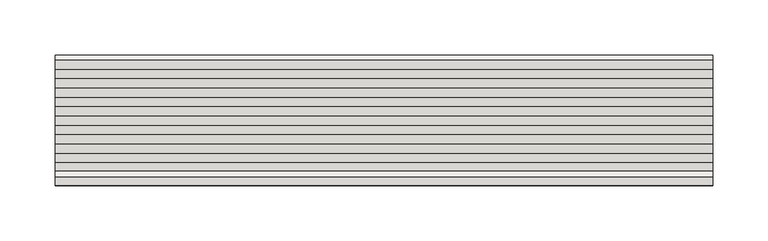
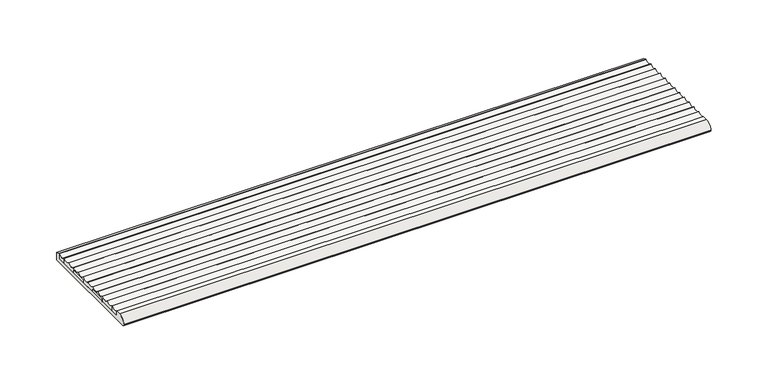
"""IFC4 building model written with IfcOpenShell, lengths in millimetres: slab geometry, ROSA GRES_003 : Pieza 003_Aqua_Marino_Anti-Slip."""

from ifc_helpers import new_model, si_unit, point, frame, frame_2d, origin, place, context, project, spatial, polyline, circle_curve, trimmed, segment, composite_curve, outline, extrude, source, transform, mapped, element, save


def slab_f8cb5bc4(model_context):
    return source(origin(), model_context, "Body", "SweptSolid", [
        extrude(outline(composite_curve([segment(polyline([(7.6419163, 9.4971975), (13.1748183, 9.4971975), (13.1748183, 4.0921512), (114.6668888, 4.0921512), (114.6668888, 10.0184612)]), True, "CONTINUOUS"), segment(trimmed(circle_curve(frame_2d((118.9168888, 13.6516438)), 5.5912893), [point((114.6668888, 10.0184612))], [point((118.9168888, 8.0603545))], True, "CARTESIAN"), True, "CONTINUOUS"), segment(polyline([(118.9168888, 8.0603545), (118.9168888, 0.0), (1.8518481, 0.0), (0.5422562, 1.309592)]), True, "CONTINUOUS"), segment(trimmed(circle_curve(frame_2d((1.9104791, 2.6778148)), 1.9349594), [point((0.5422562, 1.309592))], [point((0.0, 2.9846331))], False, "CARTESIAN"), True, "CONTINUOUS"), segment(trimmed(circle_curve(frame_2d((7.6419163, 1.7573601)), 7.7398374), [point((0.0, 2.9846331))], [point((7.6419163, 9.4971975))], False, "CARTESIAN"), True, "CONTINUOUS")], self_intersect=False)), frame((0.0, 0.0, 0.0), z_axis=(1.0, 0.0, 0.0), x_axis=(0.0, 1.0, 0.0)), (0.0, 0.0, 1.0), 598.1229221),
        extrude(outline(composite_curve([segment(trimmed(circle_curve(frame_2d((110.4168888, 13.6516438)), 5.5912893), [point((106.1668888, 10.0184612))], [point((114.6668888, 10.0184612))], True, "CARTESIAN"), True, "CONTINUOUS"), segment(polyline([(114.6668888, 10.0184612), (114.6668888, 4.0921512), (106.1668888, 4.0921512), (106.1668888, 10.0184612)]), True, "CONTINUOUS")], self_intersect=False)), frame((0.0, 0.0, 0.0), z_axis=(1.0, 0.0, 0.0), x_axis=(0.0, 1.0, 0.0)), (0.0, 0.0, 1.0), 598.1229221),
        extrude(outline(polyline([(598.1229221, 89.1668888), (598.1229221, 72.1668888), (0.0, 72.1668888), (0.0, 89.1668888), (598.1229221, 89.1668888)])), frame((0.0, 0.0, 4.0921512), z_axis=(0.0, 0.0, 1.0), x_axis=(1.0, 0.0, 0.0)), (0.0, 0.0, 1.0), 2.92631),
        extrude(outline(polyline([(598.1229221, 55.1668888), (598.1229221, 38.1668888), (0.0, 38.1668888), (0.0, 55.1668888), (598.1229221, 55.1668888)])), frame((0.0, 0.0, 4.0921512), z_axis=(0.0, 0.0, 1.0), x_axis=(1.0, 0.0, 0.0)), (0.0, 0.0, 1.0), 2.92631),
        extrude(outline(composite_curve([segment(trimmed(circle_curve(frame_2d((16.9168888, 13.6516438)), 5.5912893), [point((13.1748183, 9.4971975))], [point((21.1668888, 10.0184612))], True, "CARTESIAN"), True, "CONTINUOUS"), segment(polyline([(21.1668888, 10.0184612), (21.1668888, 4.0921512), (13.1748183, 4.0921512), (13.1748183, 9.4971975)]), True, "CONTINUOUS")], self_intersect=False)), frame((0.0, 0.0, 0.0), z_axis=(1.0, 0.0, 0.0), x_axis=(0.0, 1.0, 0.0)), (0.0, 0.0, 1.0), 598.1229221),
        extrude(outline(composite_curve([segment(trimmed(circle_curve(frame_2d((25.4168888, 13.6553338)), 5.5912893), [point((21.1668888, 10.0221512))], [point((29.6668888, 10.0221512))], True, "CARTESIAN"), True, "CONTINUOUS"), segment(trimmed(circle_curve(frame_2d((33.9168888, 13.6553338)), 5.5912893), [point((29.6668888, 10.0221512))], [point((38.1668888, 10.0221512))], True, "CARTESIAN"), True, "CONTINUOUS"), segment(trimmed(circle_curve(frame_2d((42.4168888, 13.6553338)), 5.5912893), [point((38.1668888, 10.0221512))], [point((46.6668888, 10.0221512))], True, "CARTESIAN"), True, "CONTINUOUS"), segment(trimmed(circle_curve(frame_2d((50.9168888, 13.6553338)), 5.5912893), [point((46.6668888, 10.0221512))], [point((55.1668888, 10.0221512))], True, "CARTESIAN"), True, "CONTINUOUS"), segment(trimmed(circle_curve(frame_2d((59.4168888, 13.6553338)), 5.5912893), [point((55.1668888, 10.0221512))], [point((63.6668888, 10.0221512))], True, "CARTESIAN"), True, "CONTINUOUS"), segment(trimmed(circle_curve(frame_2d((67.9168888, 13.6553338)), 5.5912893), [point((63.6668888, 10.0221512))], [point((72.1668888, 10.0221512))], True, "CARTESIAN"), True, "CONTINUOUS"), segment(trimmed(circle_curve(frame_2d((76.4168888, 13.6553338)), 5.5912893), [point((72.1668888, 10.0221512))], [point((80.6668888, 10.0221512))], True, "CARTESIAN"), True, "CONTINUOUS"), segment(trimmed(circle_curve(frame_2d((84.9168888, 13.6553338)), 5.5912893), [point((80.6668888, 10.0221512))], [point((89.1668888, 10.0221512))], True, "CARTESIAN"), True, "CONTINUOUS"), segment(trimmed(circle_curve(frame_2d((93.4168888, 13.6553338)), 5.5912893), [point((89.1668888, 10.0221512))], [point((97.6668888, 10.0221512))], True, "CARTESIAN"), True, "CONTINUOUS"), segment(trimmed(circle_curve(frame_2d((101.9168888, 13.6553338)), 5.5912893), [point((97.6668888, 10.0221512))], [point((106.1668888, 10.0221512))], True, "CARTESIAN"), True, "CONTINUOUS"), segment(polyline([(106.1668888, 10.0221512), (106.1668888, 4.0921512), (89.1668888, 4.0921512), (89.1668888, 7.0184612), (72.1668888, 7.0184612), (72.1668888, 4.0921512), (55.1668888, 4.0921512), (55.1668888, 7.0184612), (38.1668888, 7.0184612), (38.1668888, 4.0921512), (21.1668888, 4.0921512), (21.1668888, 10.0221512)]), True, "CONTINUOUS")], self_intersect=False)), frame((0.0, 0.0, 0.0), z_axis=(1.0, 0.0, 0.0), x_axis=(0.0, 1.0, 0.0)), (0.0, 0.0, 1.0), 598.1229221),
    ])


if __name__ == "__main__":
    model = new_model("IFC4")
    model_context = context("Model", 3, world=origin())
    ifc_project = project(units=[si_unit("LENGTHUNIT", "METRE", prefix="MILLI")], contexts=[model_context])
    site = spatial("IfcSite", under=ifc_project)
    building = spatial("IfcBuilding", under=site)
    placement = place(None, origin())
    slab_shape = slab_f8cb5bc4(model_context)
    element("IfcSlab", 1, ObjectType="ROSA GRES_003 : Pieza 003_Aqua_Marino_Anti-Slip", at=placement, inside=building, context=model_context, shape_type="MappedRepresentation", body=[
        mapped(slab_shape, transform((0.0, 0.0, 0.0), x_axis=(1.0, 0.0, 0.0), y_axis=(0.0, 1.0, 0.0), z_axis=(0.0, 0.0, 1.0))),
    ])
    save(model, "model.ifc")
